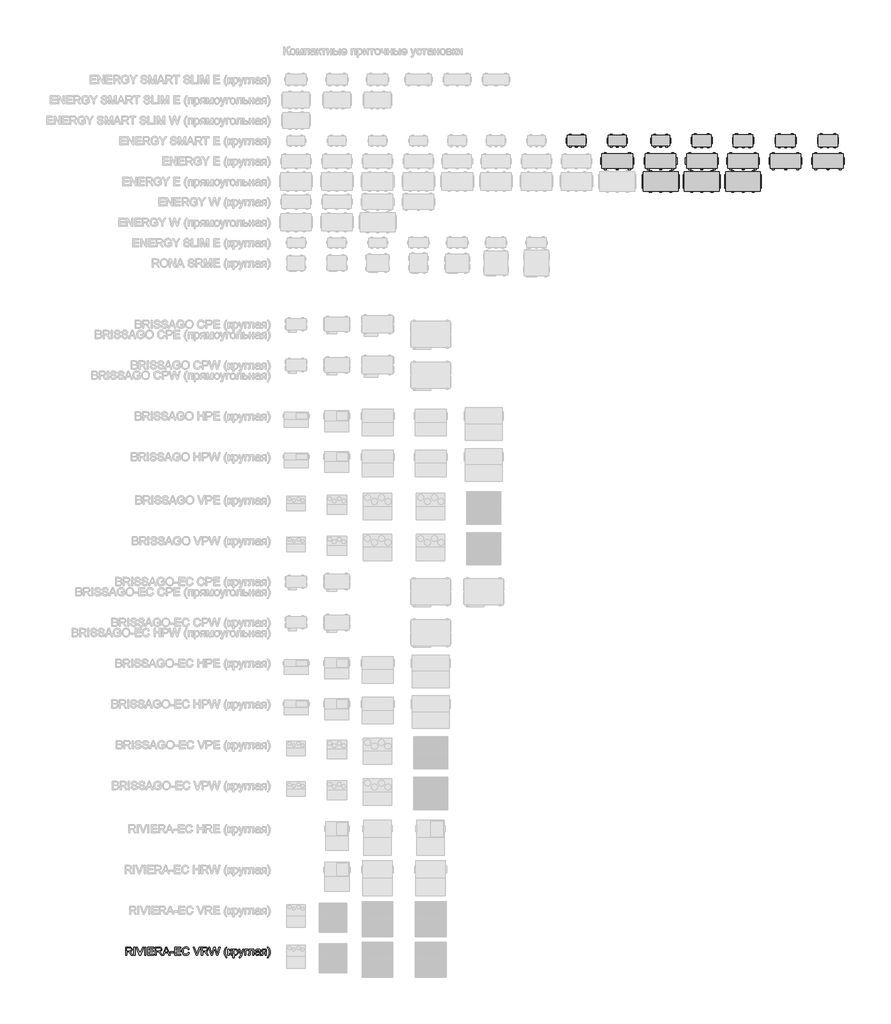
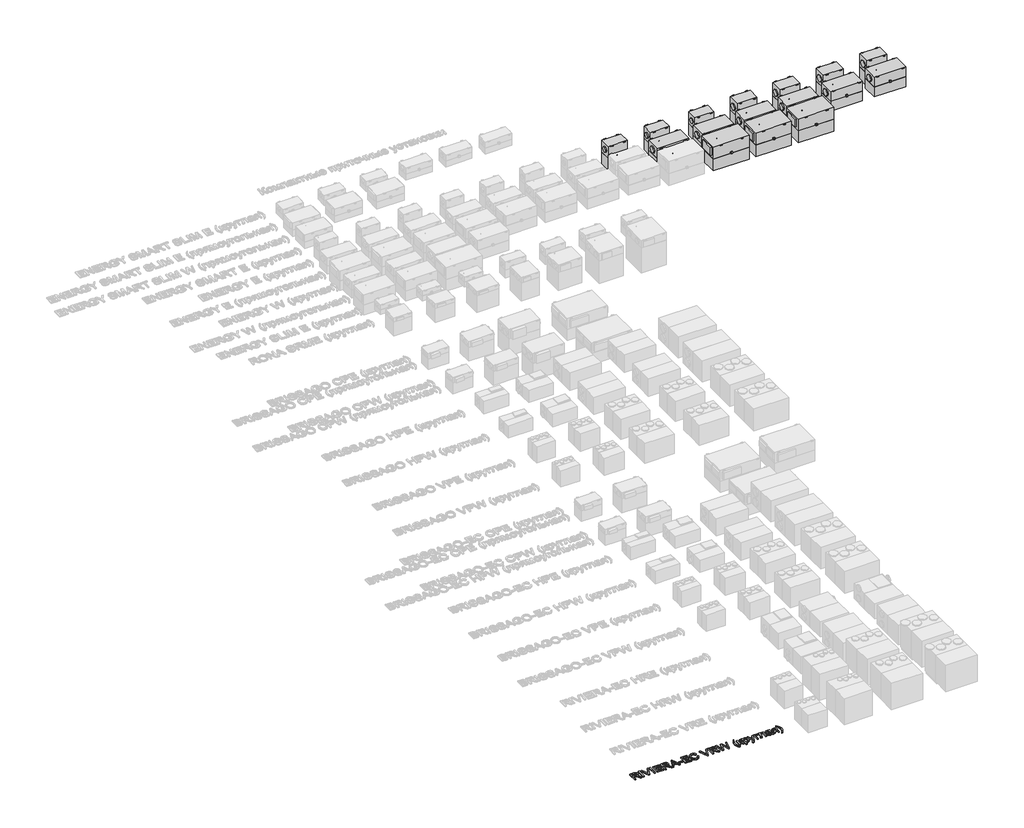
# One storey, part 2 of 28: 17 proxies.
"""IFC4 building model written with IfcOpenShell, lengths in millimetres."""

from ifc_helpers import new_model, si_unit, origin, origin_with_axes, place, context, project, spatial, polyline, outline, extrude, transform, mapped, element, save
from components import energy_e_3000_15_0_m1_e094a182, energy_e_6000_22_5_m3_f49a07c8, energy_smart_e_250_3_0_m1_23596c4c, energy_smart_e_315_12_0_m1_9dba1331

model = new_model("IFC4")

# Units and contexts
model_context = context("Model", 3, world=origin())
ifc_project = project(units=[si_unit("LENGTHUNIT", "METRE", prefix="MILLI")], contexts=[model_context])

# Site, building, storey
site = spatial("IfcSite", under=ifc_project)
building = spatial("IfcBuilding", under=site)
storey = spatial("IfcBuildingStorey", under=building, Name="Уровень 1", Elevation=0.0)

# Proxies
placement = place(None, origin())
element("IfcBuildingElementProxy", 1, Name="400 мм Arial", ObjectType="400 мм Arial", at=placement, inside=storey, context=model_context, shape_type="SweptSolid", body=[
    extrude(outline(polyline([(-29035.8849759, -20468.7413481), (-29035.8849759, -20066.9161075), (-28862.7351835, -20066.9161075), (-28816.1981111, -20069.6261715), (-28782.3407049, -20077.7563636), (-28757.5945093, -20092.765949), (-28738.3910692, -20116.114193), (-28726.0670223, -20145.066506), (-28721.9590067, -20176.8882986), (-28723.6604609, -20197.5264785), (-28728.7648236, -20216.4724013), (-28737.2720948, -20233.7260668), (-28749.1822744, -20249.2874752), (-28764.6486466, -20262.6599857), (-28783.8244956, -20273.3469577), (-28806.7098214, -20281.3483911), (-28833.3046239, -20286.6642859), (-28804.7569811, -20308.1485944), (-28764.044707, -20359.8482775), (-28697.0411329, -20468.7413481), (-28755.4117428, -20468.7413481), (-28807.7000371, -20385.4528644), (-28845.4692552, -20330.319616), (-28859.5100847, -20314.2431728), (-28872.0058098, -20304.2735708), (-28895.893614, -20294.7086389), (-28925.029868, -20292.9428053), (-28985.6568209, -20292.9428053), (-28985.6568209, -20468.7413481), (-29035.8849759, -20468.7413481)]), holes=[polyline([(-28985.6568209, -20242.7146502), (-28873.2320831, -20242.7146502), (-28840.9443067, -20240.9365539), (-28815.8915428, -20235.602265), (-28797.0314592, -20226.3561642), (-28783.3217235, -20212.8426322), (-28774.9708022, -20196.4964089), (-28772.1871618, -20178.752234), (-28777.4969253, -20154.2512931), (-28793.4262156, -20134.5082927), (-28805.5877813, -20126.9115295), (-28820.8334243, -20121.4852701), (-28860.5769425, -20117.1442626), (-28985.6568209, -20117.1442626), (-28985.6568209, -20242.7146502)])]), origin_with_axes(), (0.0, 0.0, 1.0), 50.0),
    extrude(outline(polyline([(-28627.7812159, -20468.7413481), (-28627.7812159, -20066.9161075), (-28577.5530609, -20066.9161075), (-28577.5530609, -20468.7413481), (-28627.7812159, -20468.7413481)])), origin_with_axes(), (0.0, 0.0, 1.0), 50.0),
    extrude(outline(polyline([(-28358.3934936, -20468.7413481), (-28518.2995342, -20066.9161075), (-28464.539712, -20066.9161075), (-28357.5105768, -20356.4147122), (-28335.8300646, -20421.6524527), (-28314.4438579, -20356.4147122), (-28207.1204172, -20066.9161075), (-28153.360595, -20066.9161075), (-28306.4976068, -20468.7413481), (-28358.3934936, -20468.7413481)])), origin_with_axes(), (0.0, 0.0, 1.0), 50.0),
    extrude(outline(polyline([(-28100.3855877, -20468.7413481), (-28100.3855877, -20066.9161075), (-28050.1574326, -20066.9161075), (-28050.1574326, -20468.7413481), (-28100.3855877, -20468.7413481)])), origin_with_axes(), (0.0, 0.0, 1.0), 50.0),
    extrude(outline(polyline([(-27949.7011224, -20468.7413481), (-27949.7011224, -20066.9161075), (-27660.8892308, -20066.9161075), (-27660.8892308, -20117.1442626), (-27899.4729674, -20117.1442626), (-27899.4729674, -20236.4361309), (-27673.4462695, -20236.4361309), (-27673.4462695, -20286.6642859), (-27899.4729674, -20286.6642859), (-27899.4729674, -20418.513193), (-27654.6107114, -20418.513193), (-27654.6107114, -20468.7413481), (-27949.7011224, -20468.7413481)])), origin_with_axes(), (0.0, 0.0, 1.0), 50.0),
    extrude(outline(polyline([(-27579.2684788, -20468.7413481), (-27579.2684788, -20066.9161075), (-27406.1186864, -20066.9161075), (-27359.581614, -20069.6261715), (-27325.7242077, -20077.7563636), (-27300.9780121, -20092.765949), (-27281.774572, -20116.114193), (-27269.4505252, -20145.066506), (-27265.3425095, -20176.8882986), (-27267.0439638, -20197.5264785), (-27272.1483265, -20216.4724013), (-27280.6555976, -20233.7260668), (-27292.5657772, -20249.2874752), (-27308.0321494, -20262.6599857), (-27327.2079984, -20273.3469577), (-27350.0933242, -20281.3483911), (-27376.6881267, -20286.6642859), (-27348.1404839, -20308.1485944), (-27307.4282098, -20359.8482775), (-27240.4246357, -20468.7413481), (-27298.7952456, -20468.7413481), (-27351.0835399, -20385.4528644), (-27388.8527581, -20330.319616), (-27402.8935875, -20314.2431728), (-27415.3893126, -20304.2735708), (-27439.2771169, -20294.7086389), (-27468.4133709, -20292.9428053), (-27529.0403237, -20292.9428053), (-27529.0403237, -20468.7413481), (-27579.2684788, -20468.7413481)]), holes=[polyline([(-27529.0403237, -20242.7146502), (-27416.615586, -20242.7146502), (-27384.3278095, -20240.9365539), (-27359.2750456, -20235.602265), (-27340.414962, -20226.3561642), (-27326.7052263, -20212.8426322), (-27318.354305, -20196.4964089), (-27315.5706646, -20178.752234), (-27320.8804281, -20154.2512931), (-27336.8097185, -20134.5082927), (-27348.9712841, -20126.9115295), (-27364.2169271, -20121.4852701), (-27403.9604453, -20117.1442626), (-27529.0403237, -20117.1442626), (-27529.0403237, -20242.7146502)])]), origin_with_axes(), (0.0, 0.0, 1.0), 50.0),
    extrude(outline(polyline([(-27224.2378279, -20468.7413481), (-27063.8412781, -20066.9161075), (-27021.0688647, -20066.9161075), (-26860.6723148, -20468.7413481), (-26913.745424, -20468.7413481), (-26959.7551989, -20343.1709604), (-27125.2530458, -20343.1709604), (-27171.1647188, -20468.7413481), (-27224.2378279, -20468.7413481)]), holes=[polyline([(-27106.8098951, -20292.9428053), (-26978.1002477, -20292.9428053), (-27014.299836, -20194.1542269), (-27042.4550714, -20117.1442626), (-27067.4710471, -20185.5212627), (-27106.8098951, -20292.9428053)])]), origin_with_axes(), (0.0, 0.0, 1.0), 50.0),
    extrude(outline(polyline([(-26838.4031914, -20349.4494798), (-26838.4031914, -20299.2213247), (-26681.4402068, -20299.2213247), (-26681.4402068, -20349.4494798), (-26838.4031914, -20349.4494798)])), origin_with_axes(), (0.0, 0.0, 1.0), 50.0),
    extrude(outline(polyline([(-26618.655013, -20468.7413481), (-26618.655013, -20066.9161075), (-26329.8431213, -20066.9161075), (-26329.8431213, -20117.1442626), (-26568.4268579, -20117.1442626), (-26568.4268579, -20236.4361309), (-26342.40016, -20236.4361309), (-26342.40016, -20286.6642859), (-26568.4268579, -20286.6642859), (-26568.4268579, -20418.513193), (-26323.5646019, -20418.513193), (-26323.5646019, -20468.7413481), (-26618.655013, -20468.7413481)])), origin_with_axes(), (0.0, 0.0, 1.0), 50.0),
    extrude(outline(polyline([(-25965.688997, -20325.9050321), (-25915.4608419, -20338.8544783), (-25925.3997871, -20370.0907254), (-25938.6374076, -20397.3845037), (-25955.1737033, -20420.7358134), (-25975.0086742, -20440.1446543), (-25997.6947306, -20455.4025601), (-26022.7842826, -20466.3010642), (-26050.2773304, -20472.8401666), (-26080.1738739, -20475.0198675), (-26110.8031157, -20473.3705298), (-26138.4341192, -20468.422517), (-26163.0668844, -20460.175829), (-26184.7014114, -20448.6304657), (-26203.6350715, -20433.9581054), (-26220.1652358, -20416.3304265), (-26234.2919044, -20395.7474289), (-26246.0150773, -20372.2091125), (-26261.7972149, -20320.3377512), (-26267.0579274, -20264.7875699), (-26261.1105018, -20206.1962309), (-26253.6762199, -20179.8987996), (-26243.2682251, -20155.6001938), (-26230.1195094, -20133.702018), (-26214.4630649, -20114.6058768), (-26196.2988913, -20098.3117701), (-26175.6269889, -20084.8196979), (-26153.149399, -20074.2400249), (-26129.5681631, -20066.6831155), (-26079.0947534, -20060.6375881), (-26050.3662352, -20062.593494), (-26024.0228187, -20068.4612119), (-26000.0645037, -20078.2407416), (-25978.4912904, -20091.9320831), (-25959.6587979, -20109.173486), (-25943.9226456, -20129.6031995), (-25931.2828334, -20153.2212235), (-25921.7393613, -20180.0275583), (-25971.9675164, -20191.9959858), (-25989.3805975, -20155.3672019), (-26013.1702998, -20130.2408616), (-26043.630929, -20115.7095228), (-26081.0567907, -20110.8657432), (-26124.197086, -20116.2368203), (-26142.87936, -20122.9506667), (-26159.6363848, -20132.3500517), (-26186.5285587, -20157.5131802), (-26204.0274789, -20190.0339485), (-26213.629199, -20226.7976226), (-26216.8297724, -20264.6894681), (-26213.0405878, -20311.0916504), (-26201.6730342, -20351.2153134), (-26182.2979157, -20383.5276153), (-26154.4860369, -20406.4957145), (-26121.1436654, -20420.2177129), (-26085.177069, -20424.7917124), (-26063.3402069, -20423.2343453), (-26043.2507843, -20418.5622439), (-26024.9088012, -20410.7754084), (-26008.3142575, -20399.8738386), (-25993.8595608, -20385.9065855), (-25981.9371184, -20368.9227001), (-25972.5469305, -20348.9221822), (-25965.688997, -20325.9050321)])), origin_with_axes(), (0.0, 0.0, 1.0), 50.0),
    extrude(outline(polyline([(-25570.730887, -20468.7413481), (-25730.6369275, -20066.9161075), (-25676.8771053, -20066.9161075), (-25569.8479702, -20356.4147122), (-25548.1674579, -20421.6524527), (-25526.7812513, -20356.4147122), (-25419.4578105, -20066.9161075), (-25365.6979883, -20066.9161075), (-25518.8350002, -20468.7413481), (-25570.730887, -20468.7413481)])), origin_with_axes(), (0.0, 0.0, 1.0), 50.0),
    extrude(outline(polyline([(-25319.0015004, -20468.7413481), (-25319.0015004, -20066.9161075), (-25145.851708, -20066.9161075), (-25099.3146356, -20069.6261715), (-25065.4572293, -20077.7563636), (-25040.7110338, -20092.765949), (-25021.5075936, -20116.114193), (-25009.1835468, -20145.066506), (-25005.0755312, -20176.8882986), (-25006.7769854, -20197.5264785), (-25011.8813481, -20216.4724013), (-25020.3886192, -20233.7260668), (-25032.2987988, -20249.2874752), (-25047.765171, -20262.6599857), (-25066.94102, -20273.3469577), (-25089.8263458, -20281.3483911), (-25116.4211484, -20286.6642859), (-25087.8735056, -20308.1485944), (-25047.1612314, -20359.8482775), (-24980.1576574, -20468.7413481), (-25038.5282673, -20468.7413481), (-25090.8165615, -20385.4528644), (-25128.5857797, -20330.319616), (-25142.6266092, -20314.2431728), (-25155.1223343, -20304.2735708), (-25179.0101385, -20294.7086389), (-25208.1463925, -20292.9428053), (-25268.7733453, -20292.9428053), (-25268.7733453, -20468.7413481), (-25319.0015004, -20468.7413481)]), holes=[polyline([(-25268.7733453, -20242.7146502), (-25156.3486076, -20242.7146502), (-25124.0608311, -20240.9365539), (-25099.0080673, -20235.602265), (-25080.1479837, -20226.3561642), (-25066.438248, -20212.8426322), (-25058.0873267, -20196.4964089), (-25055.3036863, -20178.752234), (-25060.6134497, -20154.2512931), (-25076.5427401, -20134.5082927), (-25088.7043057, -20126.9115295), (-25103.9499487, -20121.4852701), (-25143.693467, -20117.1442626), (-25268.7733453, -20117.1442626), (-25268.7733453, -20242.7146502)])]), origin_with_axes(), (0.0, 0.0, 1.0), 50.0),
    extrude(outline(polyline([(-24845.2675925, -20468.7413481), (-24954.8473761, -20066.9161075), (-24903.0495912, -20066.9161075), (-24839.4795824, -20331.0063291), (-24819.8592093, -20412.5289792), (-24798.8654101, -20340.4241082), (-24719.2066955, -20066.9161075), (-24644.5511759, -20066.9161075), (-24586.6710753, -20265.1799774), (-24561.8758289, -20338.7563764), (-24543.6043564, -20412.5289792), (-24524.5725945, -20333.3607739), (-24460.4139746, -20066.9161075), (-24408.6161897, -20066.9161075), (-24518.2940752, -20468.7413481), (-24571.9557955, -20468.7413481), (-24668.2918273, -20158.7394535), (-24681.7317829, -20115.4765308), (-24696.8394702, -20167.5686214), (-24784.6406397, -20468.7413481), (-24845.2675925, -20468.7413481)])), origin_with_axes(), (0.0, 0.0, 1.0), 50.0),
    extrude(outline(polyline([(-24107.2472592, -20581.754697), (-24146.1691743, -20527.1364834), (-24178.5673153, -20463.9343567), (-24191.3144265, -20429.8807467), (-24200.4195059, -20395.214), (-24205.8825535, -20359.9341166), (-24207.7035694, -20324.0410966), (-24202.2589158, -20261.6237848), (-24185.9249552, -20201.9042742), (-24153.5022887, -20134.2630381), (-24107.2472592, -20066.9161075), (-24069.5761429, -20066.9161075), (-24116.5669364, -20146.4767203), (-24132.6065914, -20184.2459385), (-24144.8202737, -20223.5847865), (-24154.3116291, -20273.837467), (-24157.4754143, -20324.3354022), (-24151.9817098, -20388.7270141), (-24135.5005964, -20453.0941005), (-24108.0320741, -20517.4366615), (-24069.5761429, -20581.754697), (-24107.2472592, -20581.754697)])), origin_with_axes(), (0.0, 0.0, 1.0), 50.0),
    extrude(outline(polyline([(-24019.3479878, -20173.650937), (-23969.1198328, -20173.650937), (-23969.1198328, -20299.2213247), (-23948.6901193, -20296.9649818), (-23935.4708929, -20290.1959531), (-23923.7722455, -20272.5376173), (-23907.9042688, -20237.6133532), (-23884.9974832, -20192.2412405), (-23875.5551787, -20183.0809788), (-23864.7884989, -20177.4769098), (-23828.0493503, -20173.650937), (-23818.4353675, -20173.650937), (-23818.4353675, -20224.1733977), (-23831.973425, -20223.8790921), (-23847.6697234, -20225.2034673), (-23856.4988913, -20229.1765928), (-23873.7648196, -20262.2369215), (-23884.3720838, -20284.273053), (-23894.0228548, -20297.9950514), (-23905.7092395, -20307.1553131), (-23922.4233448, -20315.5062344), (-23906.5063172, -20322.5757), (-23890.7364423, -20335.053031), (-23875.1137203, -20352.9382274), (-23859.638151, -20376.231289), (-23805.8783288, -20468.7413481), (-23862.9736144, -20468.7413481), (-23915.6543161, -20378.1933263), (-23929.8790866, -20354.0970556), (-23942.1418198, -20339.8845479), (-23954.5271803, -20332.9315782), (-23969.1198328, -20330.6139216), (-23969.1198328, -20468.7413481), (-24019.3479878, -20468.7413481), (-24019.3479878, -20173.650937)])), origin_with_axes(), (0.0, 0.0, 1.0), 50.0),
    extrude(outline(polyline([(-23774.4857318, -20581.754697), (-23774.4857318, -20173.650937), (-23724.2575768, -20173.650937), (-23724.2575768, -20222.8980734), (-23707.8745653, -20198.605599), (-23689.5295164, -20181.2538316), (-23668.1433098, -20170.8427711), (-23642.6368248, -20167.3724176), (-23608.6690539, -20172.22846), (-23578.9687141, -20186.796587), (-23554.7866043, -20210.1938819), (-23537.3735232, -20241.5374279), (-23526.8520982, -20278.5463566), (-23523.3449565, -20318.9397996), (-23527.3058193, -20361.8961539), (-23539.1884077, -20400.315297), (-23558.6125771, -20432.2474542), (-23585.1981826, -20455.7428509), (-23616.1615839, -20470.2006133), (-23648.7191404, -20475.0198675), (-23671.809867, -20471.7947686), (-23692.4235215, -20462.1194722), (-23710.0695945, -20447.514557), (-23724.2575768, -20429.5006019), (-23724.2575768, -20581.754697), (-23774.4857318, -20581.754697)]), holes=[polyline([(-23724.2575768, -20323.5505873), (-23718.825186, -20368.5793435), (-23712.0346975, -20386.0169501), (-23702.5280136, -20400.0700423), (-23678.4807938, -20418.6112949), (-23664.7189415, -20423.246608), (-23649.7982609, -20424.7917124), (-23634.6629825, -20423.1914257), (-23620.6497442, -20418.3905657), (-23607.7585459, -20410.3891323), (-23595.9893878, -20399.1871255), (-23586.1822669, -20384.6251299), (-23579.1771806, -20366.5437298), (-23574.9741288, -20344.9429253), (-23573.5731115, -20319.8227164), (-23579.0422905, -20275.0392149), (-23585.8787643, -20257.4667182), (-23595.4498275, -20243.1070577), (-23619.4602591, -20223.977194), (-23633.0657615, -20219.194728), (-23647.7381218, -20217.6005727), (-23662.3644968, -20219.2958956), (-23676.1263491, -20224.3818641), (-23701.0564856, -20244.7257385), (-23711.206963, -20259.8242287), (-23718.457304, -20277.9945336), (-23722.8075086, -20299.2366531), (-23724.2575768, -20323.5505873)])]), origin_with_axes(), (0.0, 0.0, 1.0), 50.0),
    extrude(outline(polyline([(-23466.838282, -20581.754697), (-23473.1168014, -20533.3904774), (-23447.6103164, -20537.8050613), (-23434.1948863, -20536.4193725), (-23423.7715631, -20532.2623059), (-23409.1543852, -20516.8112621), (-23395.420124, -20479.8268589), (-23391.4960494, -20467.6622276), (-23498.2308789, -20173.650937), (-23445.2558716, -20173.650937), (-23388.6510953, -20337.4810522), (-23368.9326204, -20403.0130983), (-23349.2141454, -20345.1329977), (-23291.0397392, -20173.650937), (-23238.4571394, -20173.650937), (-23341.1697925, -20475.8046824), (-23367.8534998, -20541.3367285), (-23381.5141846, -20562.2569512), (-23396.9897539, -20576.7515019), (-23414.9669207, -20585.2127877), (-23436.1323981, -20588.0332164), (-23466.838282, -20581.754697)])), origin_with_axes(), (0.0, 0.0, 1.0), 50.0),
    extrude(outline(polyline([(-23196.8619485, -20173.650937), (-23033.6204445, -20173.650937), (-23033.6204445, -20223.8790921), (-23146.6337934, -20223.8790921), (-23146.6337934, -20468.7413481), (-23196.8619485, -20468.7413481), (-23196.8619485, -20173.650937)])), origin_with_axes(), (0.0, 0.0, 1.0), 50.0),
    extrude(outline(polyline([(-22970.8352506, -20173.650937), (-22744.8085528, -20173.650937), (-22744.8085528, -20468.4470425), (-22795.0367079, -20468.4470425), (-22795.0367079, -20223.8790921), (-22920.6070956, -20223.8790921), (-22920.6070956, -20364.6552689), (-22923.9916099, -20429.5987038), (-22930.331443, -20444.3017209), (-22942.5819134, -20457.0181752), (-22961.1722169, -20465.8105548), (-22986.5315491, -20468.7413481), (-23027.3419251, -20466.1906996), (-23027.3419251, -20418.513193), (-23004.8765979, -20418.513193), (-22982.1660161, -20415.4229842), (-22973.0915936, -20405.6127977), (-22970.8352506, -20361.8103148), (-22970.8352506, -20173.650937)])), origin_with_axes(), (0.0, 0.0, 1.0), 50.0),
    extrude(outline(polyline([(-22481.1107387, -20431.0702318), (-22505.1089075, -20451.647098), (-22529.8183148, -20465.1115791), (-22555.8030464, -20472.5427954), (-22583.627188, -20475.0198675), (-22605.9913476, -20473.5299454), (-22625.6025236, -20469.0601791), (-22642.4607161, -20461.6105687), (-22656.5659249, -20451.1811142), (-22667.7035523, -20438.434003), (-22675.6590005, -20424.0314229), (-22680.4322693, -20407.9733738), (-22682.023359, -20390.2598558), (-22679.6198633, -20369.4377348), (-22672.4093762, -20350.5286003), (-22661.2870772, -20334.3417925), (-22647.1481458, -20321.6866519), (-22630.5321424, -20312.12172), (-22611.9786271, -20305.2055385), (-22568.5195007, -20297.6516949), (-22517.1631742, -20289.7054438), (-22481.4050443, -20280.3857665), (-22481.1107387, -20269.2021539), (-22484.5688294, -20246.7858777), (-22494.9431017, -20232.1196488), (-22518.1441928, -20221.2303417), (-22550.4687575, -20217.6005727), (-22580.3898264, -20220.0163311), (-22601.2855238, -20227.2636064), (-22615.5348197, -20240.6667738), (-22625.5166845, -20261.5502084), (-22675.7448396, -20255.271689), (-22667.0260363, -20227.8031667), (-22654.0152764, -20206.2207563), (-22635.4985493, -20189.7151175), (-22610.2618444, -20177.4769098), (-22579.396545, -20169.8985407), (-22543.9940344, -20167.3724176), (-22510.0385262, -20169.6042351), (-22483.1218269, -20176.2996874), (-22462.8270035, -20186.3673913), (-22448.7371231, -20198.7159636), (-22439.3929204, -20213.9830664), (-22433.3351302, -20232.8063618), (-22430.8825836, -20276.7559975), (-22430.8825836, -20339.2468858), (-22428.3319351, -20426.508495), (-22418.3255448, -20468.7413481), (-22468.5536999, -20468.7413481), (-22476.5980529, -20451.279216), (-22481.1107387, -20431.0702318)]), holes=[polyline([(-22481.1107387, -20330.6139216), (-22514.8577804, -20338.9771056), (-22562.1428795, -20346.0159145), (-22605.3567512, -20354.1583693), (-22616.6016775, -20359.7256502), (-22624.9280733, -20367.4021211), (-22630.0784212, -20376.599171), (-22631.7952039, -20386.7281886), (-22628.0550703, -20401.6641976), (-22616.8346694, -20413.9024053), (-22598.379256, -20422.0693856), (-22572.9340847, -20424.7917124), (-22545.9560717, -20421.7873428), (-22522.1173184, -20412.7742339), (-22502.7912509, -20399.4936939), (-22489.3512954, -20383.6870308), (-22483.391607, -20367.4021211), (-22481.4050443, -20344.8386921), (-22481.1107387, -20330.6139216)])]), origin_with_axes(), (0.0, 0.0, 1.0), 50.0),
    extrude(outline(polyline([(-22135.7921725, -20173.650937), (-22135.7921725, -20468.7413481), (-22186.0203276, -20468.7413481), (-22186.0203276, -20355.7279992), (-22213.390748, -20355.7279992), (-22235.2184131, -20357.3221545), (-22250.6694569, -20362.1046204), (-22265.556415, -20376.0105598), (-22285.6918228, -20404.9751356), (-22325.7173839, -20468.7413481), (-22383.7936882, -20468.7413481), (-22333.3693294, -20388.1016147), (-22311.100206, -20359.1615644), (-22290.5969161, -20346.3102201), (-22324.932569, -20335.788795), (-22338.2744227, -20326.9780212), (-22349.0656279, -20315.8005399), (-22363.3394493, -20289.2149344), (-22368.0973897, -20258.901458), (-22366.4725776, -20240.8139266), (-22361.5981412, -20224.5167542), (-22353.4740804, -20210.0099409), (-22342.1003954, -20197.2934866), (-22327.6487644, -20186.9498711), (-22310.2908656, -20179.5615744), (-22290.026699, -20175.1285964), (-22266.8562647, -20173.650937), (-22135.7921725, -20173.650937)]), holes=[polyline([(-22186.0203276, -20223.8790921), (-22252.2390867, -20223.8790921), (-22286.4398496, -20226.7853598), (-22305.8517562, -20235.5041631), (-22314.864865, -20248.1225156), (-22317.8692347, -20262.7274308), (-22313.442388, -20281.8695573), (-22300.161848, -20295.1500973), (-22275.6241189, -20302.9124074), (-22237.4257051, -20305.4998441), (-22186.0203276, -20305.4998441), (-22186.0203276, -20223.8790921)])]), origin_with_axes(), (0.0, 0.0, 1.0), 50.0),
    extrude(outline(polyline([(-22047.8929011, -20581.754697), (-22085.5640175, -20581.754697), (-22047.1080862, -20517.4366615), (-22019.6395639, -20453.0941005), (-22003.1584505, -20388.7270141), (-21997.6647461, -20324.3354022), (-22000.8285312, -20274.205349), (-22010.3198867, -20224.4677033), (-22022.3128397, -20185.0552789), (-22038.2789183, -20147.2615352), (-22085.5640175, -20066.9161075), (-22047.8929011, -20066.9161075), (-22001.6378716, -20134.2630381), (-21969.2152051, -20201.9042742), (-21952.8812445, -20261.6237848), (-21947.436591, -20324.0410966), (-21949.2668039, -20359.9341166), (-21954.7574427, -20395.214), (-21963.9085073, -20429.8807467), (-21976.7199978, -20463.9343567), (-22009.1549271, -20527.1364834), (-22047.8929011, -20581.754697)])), origin_with_axes(), (0.0, 0.0, 1.0), 50.0),
])
energy_e_3000_15_0_m1_shape = energy_e_3000_15_0_m1_e094a182(model_context)
element("IfcBuildingElementProxy", 2, Name="ADSK_КПВУ_ENERGY E_круглая : Energy E 3000-15.0 M1", ObjectType="ADSK_КПВУ_ENERGY E_круглая : Energy E 3000-15.0 M1", at=placement, inside=storey, context=model_context, shape_type="MappedRepresentation", body=[
    mapped(energy_e_3000_15_0_m1_shape, transform((-1051.5111746, 18471.3067858, 0.0), x_axis=(1.0, 0.0, 0.0), y_axis=(0.0, 1.0, 0.0), z_axis=(0.0, 0.0, 1.0))),
])
element("IfcBuildingElementProxy", 3, Name="ADSK_КПВУ_ENERGY E_круглая : Energy E 3000-15.0 M3", ObjectType="ADSK_КПВУ_ENERGY E_круглая : Energy E 3000-15.0 M3", at=placement, inside=storey, context=model_context, shape_type="MappedRepresentation", body=[
    mapped(energy_e_3000_15_0_m1_shape, transform((974.7297891, 18471.3067858, 0.0), x_axis=(1.0, 0.0, 0.0), y_axis=(0.0, 1.0, 0.0), z_axis=(0.0, 0.0, 1.0))),
])
element("IfcBuildingElementProxy", 4, Name="ADSK_КПВУ_ENERGY E_круглая : Energy E 3000-22.5 M1", ObjectType="ADSK_КПВУ_ENERGY E_круглая : Energy E 3000-22.5 M1", at=placement, inside=storey, context=model_context, shape_type="MappedRepresentation", body=[
    mapped(energy_e_3000_15_0_m1_shape, transform((3060.2175646, 18471.3067858, 0.0), x_axis=(1.0, 0.0, 0.0), y_axis=(0.0, 1.0, 0.0), z_axis=(0.0, 0.0, 1.0))),
])
element("IfcBuildingElementProxy", 5, Name="ADSK_КПВУ_ENERGY E_круглая : Energy E 3000-22.5 M3", ObjectType="ADSK_КПВУ_ENERGY E_круглая : Energy E 3000-22.5 M3", at=placement, inside=storey, context=model_context, shape_type="MappedRepresentation", body=[
    mapped(energy_e_3000_15_0_m1_shape, transform((5133.8559778, 18471.3067858, 0.0), x_axis=(1.0, 0.0, 0.0), y_axis=(0.0, 1.0, 0.0), z_axis=(0.0, 0.0, 1.0))),
])
element("IfcBuildingElementProxy", 6, Name="ADSK_КПВУ_ENERGY E_круглая : Energy E 3000-6.0 M1", ObjectType="ADSK_КПВУ_ENERGY E_круглая : Energy E 3000-6.0 M1", at=placement, inside=storey, context=model_context, shape_type="MappedRepresentation", body=[
    mapped(energy_e_3000_15_0_m1_shape, transform((-5196.5284364, 18471.3067858, 0.0), x_axis=(1.0, 0.0, 0.0), y_axis=(0.0, 1.0, 0.0), z_axis=(0.0, 0.0, 1.0))),
])
element("IfcBuildingElementProxy", 7, Name="ADSK_КПВУ_ENERGY E_круглая : Energy E 3000-6.0 M3", ObjectType="ADSK_КПВУ_ENERGY E_круглая : Energy E 3000-6.0 M3", at=placement, inside=storey, context=model_context, shape_type="MappedRepresentation", body=[
    mapped(energy_e_3000_15_0_m1_shape, transform((-3067.4091524, 18471.3067858, 0.0), x_axis=(1.0, 0.0, 0.0), y_axis=(0.0, 1.0, 0.0), z_axis=(0.0, 0.0, 1.0))),
])
energy_e_6000_22_5_m3_shape = energy_e_6000_22_5_m3_f49a07c8(model_context)
element("IfcBuildingElementProxy", 8, Name="ADSK_КПВУ_ENERGY E_прямоугольная : Energy E 6000-30.0 M3", ObjectType="ADSK_КПВУ_ENERGY E_прямоугольная : Energy E 6000-30.0 M3", at=placement, inside=storey, context=model_context, shape_type="MappedRepresentation", body=[
    mapped(energy_e_6000_22_5_m3_shape, transform((-3067.4091524, 17471.3067858, 0.0), x_axis=(1.0, 0.0, 0.0), y_axis=(0.0, 1.0, 0.0), z_axis=(0.0, 0.0, 1.0))),
])
element("IfcBuildingElementProxy", 9, Name="ADSK_КПВУ_ENERGY E_прямоугольная : Energy E 6000-45.0 M3", ObjectType="ADSK_КПВУ_ENERGY E_прямоугольная : Energy E 6000-45.0 M3", at=placement, inside=storey, context=model_context, shape_type="MappedRepresentation", body=[
    mapped(energy_e_6000_22_5_m3_shape, transform((-1051.5111746, 17471.3067858, 0.0), x_axis=(1.0, 0.0, 0.0), y_axis=(0.0, 1.0, 0.0), z_axis=(0.0, 0.0, 1.0))),
])
element("IfcBuildingElementProxy", 10, Name="ADSK_КПВУ_ENERGY E_прямоугольная : Energy E 6000-60.0 M3", ObjectType="ADSK_КПВУ_ENERGY E_прямоугольная : Energy E 6000-60.0 M3", at=placement, inside=storey, context=model_context, shape_type="MappedRepresentation", body=[
    mapped(energy_e_6000_22_5_m3_shape, transform((974.7297891, 17471.3067858, 0.0), x_axis=(1.0, 0.0, 0.0), y_axis=(0.0, 1.0, 0.0), z_axis=(0.0, 0.0, 1.0))),
])
energy_smart_e_250_3_0_m1_shape = energy_smart_e_250_3_0_m1_23596c4c(model_context)
element("IfcBuildingElementProxy", 11, Name="ADSK_КПВУ_ENERGY SMART E_круглая : Energy Smart E 250-3.0 M1", ObjectType="ADSK_КПВУ_ENERGY SMART E_круглая : Energy Smart E 250-3.0 M1", at=placement, inside=storey, context=model_context, shape_type="MappedRepresentation", body=[
    mapped(energy_smart_e_250_3_0_m1_shape, transform((-7201.33024, 19471.3067858, 0.0), x_axis=(1.0, 0.0, 0.0), y_axis=(0.0, 1.0, 0.0), z_axis=(0.0, 0.0, 1.0))),
])
element("IfcBuildingElementProxy", 12, Name="ADSK_КПВУ_ENERGY SMART E_круглая : Energy Smart E 250-6.0 M1", ObjectType="ADSK_КПВУ_ENERGY SMART E_круглая : Energy Smart E 250-6.0 M1", at=placement, inside=storey, context=model_context, shape_type="MappedRepresentation", body=[
    mapped(energy_smart_e_250_3_0_m1_shape, transform((-5196.5284364, 19471.3067858, 0.0), x_axis=(1.0, 0.0, 0.0), y_axis=(0.0, 1.0, 0.0), z_axis=(0.0, 0.0, 1.0))),
])
element("IfcBuildingElementProxy", 13, Name="ADSK_КПВУ_ENERGY SMART E_круглая : Energy Smart E 250-9.0 M1", ObjectType="ADSK_КПВУ_ENERGY SMART E_круглая : Energy Smart E 250-9.0 M1", at=placement, inside=storey, context=model_context, shape_type="MappedRepresentation", body=[
    mapped(energy_smart_e_250_3_0_m1_shape, transform((-3067.4091524, 19471.3067858, 0.0), x_axis=(1.0, 0.0, 0.0), y_axis=(0.0, 1.0, 0.0), z_axis=(0.0, 0.0, 1.0))),
])
energy_smart_e_315_12_0_m1_shape = energy_smart_e_315_12_0_m1_9dba1331(model_context)
element("IfcBuildingElementProxy", 14, Name="ADSK_КПВУ_ENERGY SMART E_круглая : Energy Smart E 315-12.0 M1", ObjectType="ADSK_КПВУ_ENERGY SMART E_круглая : Energy Smart E 315-12.0 M1", at=placement, inside=storey, context=model_context, shape_type="MappedRepresentation", body=[
    mapped(energy_smart_e_315_12_0_m1_shape, transform((5133.8559778, 19471.3067858, 0.0), x_axis=(1.0, 0.0, 0.0), y_axis=(0.0, 1.0, 0.0), z_axis=(0.0, 0.0, 1.0))),
])
element("IfcBuildingElementProxy", 15, Name="ADSK_КПВУ_ENERGY SMART E_круглая : Energy Smart E 315-3.0 M1", ObjectType="ADSK_КПВУ_ENERGY SMART E_круглая : Energy Smart E 315-3.0 M1", at=placement, inside=storey, context=model_context, shape_type="MappedRepresentation", body=[
    mapped(energy_smart_e_315_12_0_m1_shape, transform((-1051.5111746, 19471.3067858, 0.0), x_axis=(1.0, 0.0, 0.0), y_axis=(0.0, 1.0, 0.0), z_axis=(0.0, 0.0, 1.0))),
])
element("IfcBuildingElementProxy", 16, Name="ADSK_КПВУ_ENERGY SMART E_круглая : Energy Smart E 315-6.0 M1", ObjectType="ADSK_КПВУ_ENERGY SMART E_круглая : Energy Smart E 315-6.0 M1", at=placement, inside=storey, context=model_context, shape_type="MappedRepresentation", body=[
    mapped(energy_smart_e_315_12_0_m1_shape, transform((974.7297891, 19471.3067858, 0.0), x_axis=(1.0, 0.0, 0.0), y_axis=(0.0, 1.0, 0.0), z_axis=(0.0, 0.0, 1.0))),
])
element("IfcBuildingElementProxy", 17, Name="ADSK_КПВУ_ENERGY SMART E_круглая : Energy Smart E 315-9.0 M1", ObjectType="ADSK_КПВУ_ENERGY SMART E_круглая : Energy Smart E 315-9.0 M1", at=placement, inside=storey, context=model_context, shape_type="MappedRepresentation", body=[
    mapped(energy_smart_e_315_12_0_m1_shape, transform((3060.2175646, 19471.3067858, 0.0), x_axis=(1.0, 0.0, 0.0), y_axis=(0.0, 1.0, 0.0), z_axis=(0.0, 0.0, 1.0))),
])

save(model, "model.ifc")
